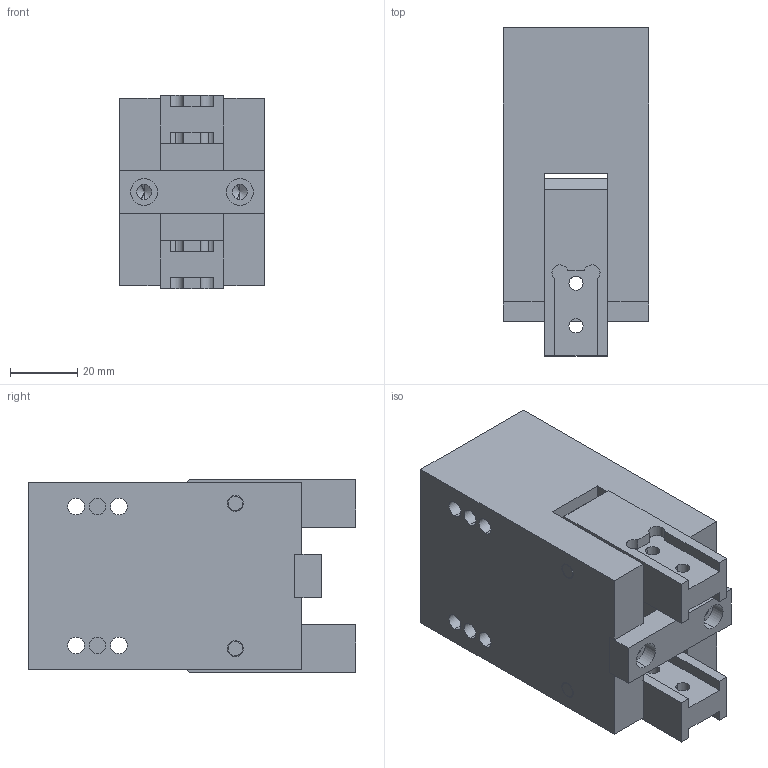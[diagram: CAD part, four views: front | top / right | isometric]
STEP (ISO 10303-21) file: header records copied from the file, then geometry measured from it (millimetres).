
FILE_DESCRIPTION (( 'STEP AP203' ), '1' );
FILE_NAME ('AGA-30 CLOSED in MM.STEP', '2014-11-03T20:30:15', ( 'setup' ), ( '' ), 'SwSTEP 2.0', 'SolidWorks 2013', '' );
FILE_SCHEMA (( 'CONFIG_CONTROL_DESIGN' ));
Length unit declared in the file: millimetre
Products named in the file (5): AGA-30 BODY; AGA-30 PIN; AGA-30 JAW; AGA-30 BLOCK; AGA-30 CLOSED in MM
Assembly tree (6 placements, depth 2):
  AGA-30 CLOSED in MM
    AGA-30 BODY
    AGA-30 PIN  x2
    AGA-30 JAW  x2
    AGA-30 BLOCK
Bounding box: 43.18 x 97.49 x 57.4 mm (x, y, z)
Volume: 170709.6 mm3; surface area: 43403.6 mm2
Topology: 6 solids, 6 shells, 211 faces, 518 edges, 324 vertices
Faces by surface type: cylinder 99, plane 80, cone 32
Entity records: 5673 total; most frequent: DIRECTION 952, CARTESIAN_POINT 858, ORIENTED_EDGE 820, EDGE_CURVE 410, AXIS2_PLACEMENT_3D 358, VERTEX_POINT 264, VECTOR 236, LINE 236
